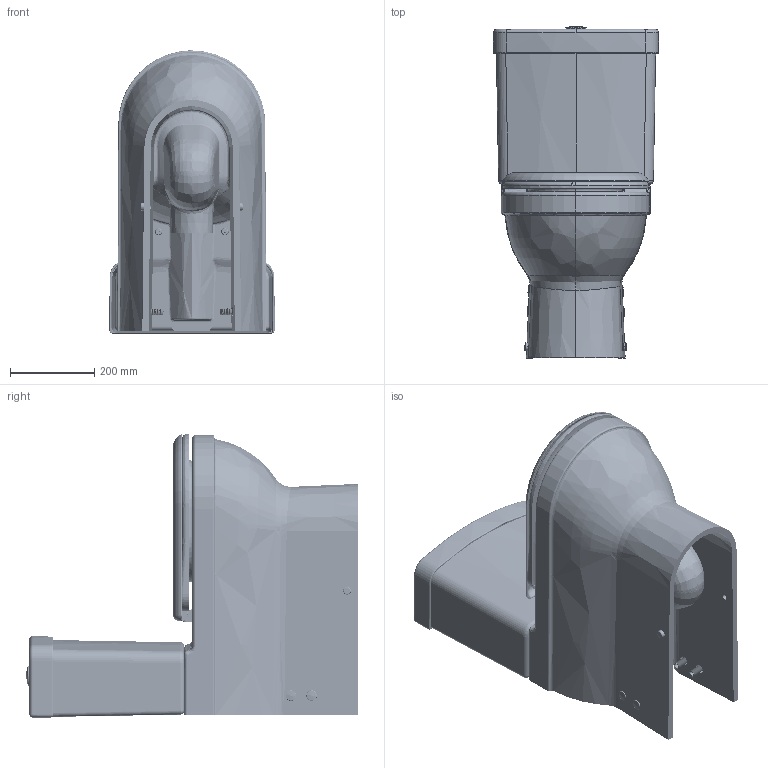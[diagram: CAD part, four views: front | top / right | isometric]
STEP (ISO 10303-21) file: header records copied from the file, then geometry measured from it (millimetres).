
FILE_DESCRIPTION (( 'STEP AP203' ), '1' );
FILE_NAME ('VT360-00CB00E-0000+VT410-00CB00E-0000+KC0103.03.0000E.STEP', '2022-06-01T14:24:30', ( '' ), ( '' ), 'SwSTEP 2.0', 'SolidWorks 2021', '' );
FILE_SCHEMA (( 'CONFIG_CONTROL_DESIGN' ));
Length unit declared in the file: millimetre
Products named in the file (1): VT360-00CB00E-0000+VT410-00CB00E-0000+KC0103.03.0000E
Bounding box: 393.76 x 790.04 x 674.11 mm (x, y, z)
Volume: 21130512.6 mm3; surface area: 3341183.5 mm2
Topology: 40 solids, 40 shells, 2829 faces, 7194 edges, 4433 vertices
Faces by surface type: cylinder 1417, plane 531, bspline 398, torus 324, sphere 88, cone 71
Entity records: 284626 total; most frequent: CARTESIAN_POINT 225028, ORIENTED_EDGE 14242, DIRECTION 10175, EDGE_CURVE 7121, VERTEX_POINT 4433, AXIS2_PLACEMENT_3D 3970, EDGE_LOOP 2960, FACE_OUTER_BOUND 2829
